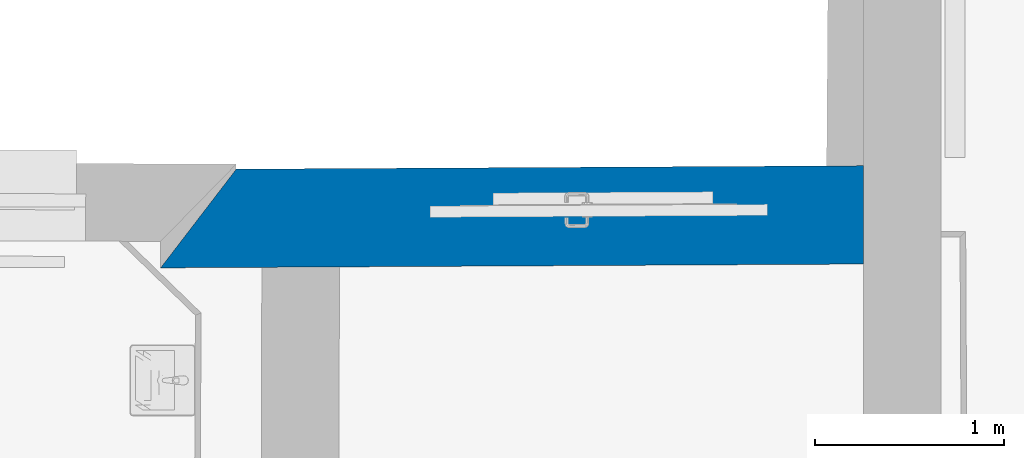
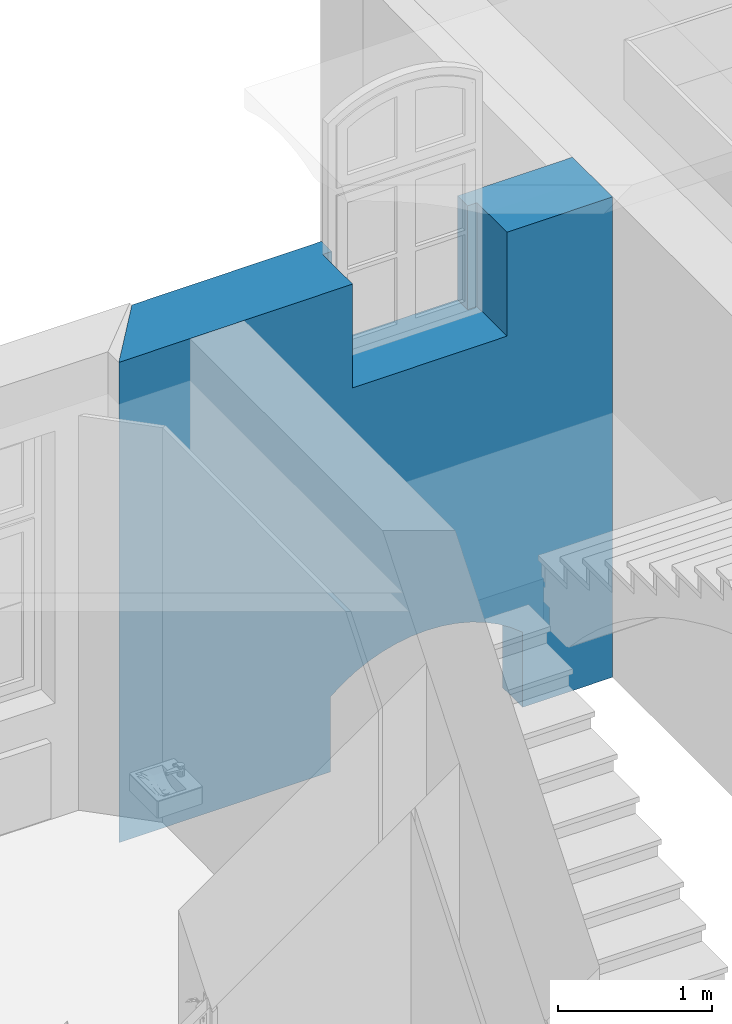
# One storey, part 44 of 158: 1 wall, 2 openings.
"""IFC2X3 building model written with IfcOpenShell, lengths in metres."""

from ifc_helpers import new_model, entity, si_unit, converted_unit, derived_unit, money_unit, direction, frame, origin_with_axes, place, context, subcontext, project, spatial, polyline, outline, extrude, material, layer, layer_set, layer_usage, type_object, element, save


model = new_model("IFC2X3")

# Units and contexts
model_context = context("Model", 3, precision=1e-05, world=origin_with_axes(), true_north=direction((0.0, 1.0)))
body_context = subcontext(model_context, "Body", "Model", "MODEL_VIEW")
ifc_project = project(units=[si_unit("LENGTHUNIT", "METRE"), si_unit("AREAUNIT", "SQUARE_METRE"), si_unit("VOLUMEUNIT", "CUBIC_METRE"), converted_unit("PLANEANGLEUNIT", "DEGREE", entity("IfcPlaneAngleMeasure", 0.0174532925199), si_unit("PLANEANGLEUNIT", "RADIAN"), dimensions=[0, 0, 0, 0, 0, 0, 0]), money_unit("EUR"), converted_unit("TIMEUNIT", "Year", entity("IfcTimeMeasure", 31556926.0), si_unit("TIMEUNIT", "SECOND"), dimensions=[0, 0, 1, 0, 0, 0, 0]), si_unit("MASSUNIT", "GRAM", prefix="KILO"), si_unit("THERMODYNAMICTEMPERATUREUNIT", "DEGREE_CELSIUS"), si_unit("LUMINOUSINTENSITYUNIT", "LUMEN"), si_unit("ENERGYUNIT", "JOULE", prefix="MEGA"), derived_unit("THERMALCONDUCTANCEUNIT", [(si_unit("POWERUNIT", "WATT"), 1), (si_unit("LENGTHUNIT", "METRE"), -1), (si_unit("THERMODYNAMICTEMPERATUREUNIT", "KELVIN"), -1)]), derived_unit("SPECIFICHEATCAPACITYUNIT", [(si_unit("ENERGYUNIT", "JOULE"), 1), (si_unit("MASSUNIT", "GRAM", prefix="KILO"), -1), (si_unit("THERMODYNAMICTEMPERATUREUNIT", "KELVIN"), -1)]), derived_unit("MASSDENSITYUNIT", [(si_unit("MASSUNIT", "GRAM", prefix="KILO"), 1), (si_unit("VOLUMEUNIT", "CUBIC_METRE"), -1)])], contexts=[model_context])

# Site, building, storey
site_placement = place(None, origin_with_axes())
site = spatial("IfcSite", under=ifc_project, at=site_placement, Name="Gelände", CompositionType="ELEMENT")
building_placement = place(site_placement, origin_with_axes())
building = spatial("IfcBuilding", under=site, at=building_placement, Name="Gebäude", CompositionType="ELEMENT")
storey_placement = place(building_placement, origin_with_axes())
storey = spatial("IfcBuildingStorey", under=building, at=storey_placement, Name="ERDGESCHOSS", CompositionType="ELEMENT", Elevation=0.0)

# Wall, openings
ifc_material = material(Name="05_ALLGEMEIN - TRAGENDE BAUTEILE")
ifc_layer = layer(ifc_material, 0.52, ventilated="UNKNOWN")
ifc_layer_set = layer_set([ifc_layer], Name="05_ALLGEMEIN - TRAGENDE BAUTEILE 0.52")
ifc_layer_usage = layer_usage(ifc_layer_set, "AXIS2", "NEGATIVE", 0.52)
wall_type = type_object("IfcWallType", Name="05_ALLGEMEIN - TRAGENDE BAUTEILE 520", PredefinedType="ELEMENTEDWALL")
wall_placement = place(storey_placement, frame((24.6728132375, 26.1866273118, -0.210000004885), z_axis=(0.0, 0.0, 1.0), x_axis=(-0.999985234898, -0.00543414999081, 0.0)))
wall = element("IfcWallStandardCase", 1, at=wall_placement, inside=storey, type_object=wall_type, material=ifc_layer_usage, Name="Wand-031", ObjectType="ELEMENTEDWALL", context=body_context, shape_type="SweptSolid", body=[
    extrude(outline(polyline([(0.0, 0.0), (3.31615449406, 0.0), (3.7189861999, 0.52), (0.00290256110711, 0.52), (0.0, 0.0)])), origin_with_axes(), (0.0, 0.0, 1.0), 3.81000000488),
])
opening_1_placement = place(wall_placement, frame((1.37748009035, 0.0, 2.98629362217), z_axis=(0.0, 0.0, 1.0), x_axis=(1.0, 0.0, 0.0)))
element("IfcOpeningElement", 2, at=opening_1_placement, cuts=wall, Name="Fenster-015", context=body_context, shape_type="SweptSolid", body=[
    extrude(outline(polyline([(0.581069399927, 0.0), (0.581069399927, 1.9), (0.494360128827, 1.95655851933), (0.402196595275, 2.00370983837), (0.305595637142, 2.04093373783), (0.205623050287, 2.06781952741), (0.103381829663, 2.08407057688), (0.0, 2.08950758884), (-0.103381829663, 2.08407057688), (-0.205623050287, 2.06781952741), (-0.305595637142, 2.04093373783), (-0.402196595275, 2.00370983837), (-0.494360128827, 1.95655851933), (-0.581069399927, 1.9), (-0.581069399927, 0.0), (0.581069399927, 0.0)])), frame((0.0, 0.133034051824, 0.0), z_axis=(0.0, -1.0, 0.0), x_axis=(1.0, 0.0, 0.0)), (0.0, 0.0, -1.0), 0.906965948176),
    extrude(outline(polyline([(-0.511069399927, 0.0), (-0.511069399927, -1.86359785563), (-0.433723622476, -1.91026091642), (-0.35215613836, -1.94907529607), (-0.267160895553, -1.97966318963), (-0.179565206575, -2.00172686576), (-0.0902216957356, -2.01505156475), (0.0, -2.01950758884), (0.0902216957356, -2.01505156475), (0.179565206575, -2.00172686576), (0.267160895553, -1.97966318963), (0.35215613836, -1.94907529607), (0.433723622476, -1.91026091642), (0.511069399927, -1.86359785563), (0.511069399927, 0.0), (-0.511069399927, 0.0)])), frame((0.0, 0.133034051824, 0.0), z_axis=(0.0, 1.0, 0.0), x_axis=(1.0, 0.0, 0.0)), (0.0, 0.0, -1.0), 0.653034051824),
])
opening_2_placement = place(wall_placement, frame((1.40138189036, 0.0, -1.95129019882), z_axis=(0.0, 0.0, 1.0), x_axis=(1.0, 0.0, 0.0)))
element("IfcOpeningElement", 3, at=opening_2_placement, cuts=wall, Name="Tür-022", context=body_context, shape_type="SweptSolid", body=[
    extrude(outline(polyline([(-0.722459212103, 0.0), (-0.722459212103, -2.54676229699), (-0.633844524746, -2.6160768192), (-0.538625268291, -2.67599642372), (-0.437793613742, -2.72589675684), (-0.332400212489, -2.76525786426), (-0.223543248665, -2.79366960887), (-0.112356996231, -2.81083594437), (0.0, -2.816578), (0.112356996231, -2.81083594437), (0.223543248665, -2.79366960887), (0.332400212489, -2.76525786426), (0.437793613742, -2.72589675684), (0.538625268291, -2.67599642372), (0.633844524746, -2.6160768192), (0.722459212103, -2.54676229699), (0.722459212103, 0.0), (-0.722459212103, 0.0)])), frame((0.0, 0.260909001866, 0.0), z_axis=(0.0, 1.0, 0.0), x_axis=(1.0, 0.0, 0.0)), (0.0, 0.0, 1.0), 0.779090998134),
    extrude(outline(polyline([(0.892459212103, 0.0), (0.892459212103, 2.621), (0.80027261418, 2.70332743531), (0.700531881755, 2.77632032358), (0.59417851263, 2.83928965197), (0.482216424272, 2.89164102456), (0.365702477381, 2.93288027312), (0.245736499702, 2.96261812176), (0.123450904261, 2.9805738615), (0.0, 2.986578), (-0.123450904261, 2.9805738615), (-0.245736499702, 2.96261812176), (-0.365702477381, 2.93288027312), (-0.482216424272, 2.89164102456), (-0.59417851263, 2.83928965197), (-0.700531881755, 2.77632032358), (-0.80027261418, 2.70332743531), (-0.892459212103, 2.621), (-0.892459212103, 0.0), (0.892459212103, 0.0)])), frame((0.0, 0.200909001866, 0.0), z_axis=(0.0, -1.0, 0.0), x_axis=(1.0, 0.0, 0.0)), (0.0, 0.0, 1.0), 0.720909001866),
    extrude(outline(polyline([(0.892459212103, 0.0), (0.892459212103, 2.621), (0.80027261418, 2.70332743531), (0.700531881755, 2.77632032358), (0.59417851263, 2.83928965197), (0.482216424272, 2.89164102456), (0.365702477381, 2.93288027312), (0.245736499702, 2.96261812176), (0.123450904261, 2.9805738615), (0.0, 2.986578), (-0.123450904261, 2.9805738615), (-0.245736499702, 2.96261812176), (-0.365702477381, 2.93288027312), (-0.482216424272, 2.89164102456), (-0.59417851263, 2.83928965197), (-0.700531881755, 2.77632032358), (-0.80027261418, 2.70332743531), (-0.892459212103, 2.621), (-0.892459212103, 0.0), (0.892459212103, 0.0)])), frame((0.0, 0.200909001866, 0.0), z_axis=(0.0, -1.0, 0.0), x_axis=(1.0, 0.0, 0.0)), (0.0, 0.0, -1.0), 0.06),
])

save(model, "model.ifc")
